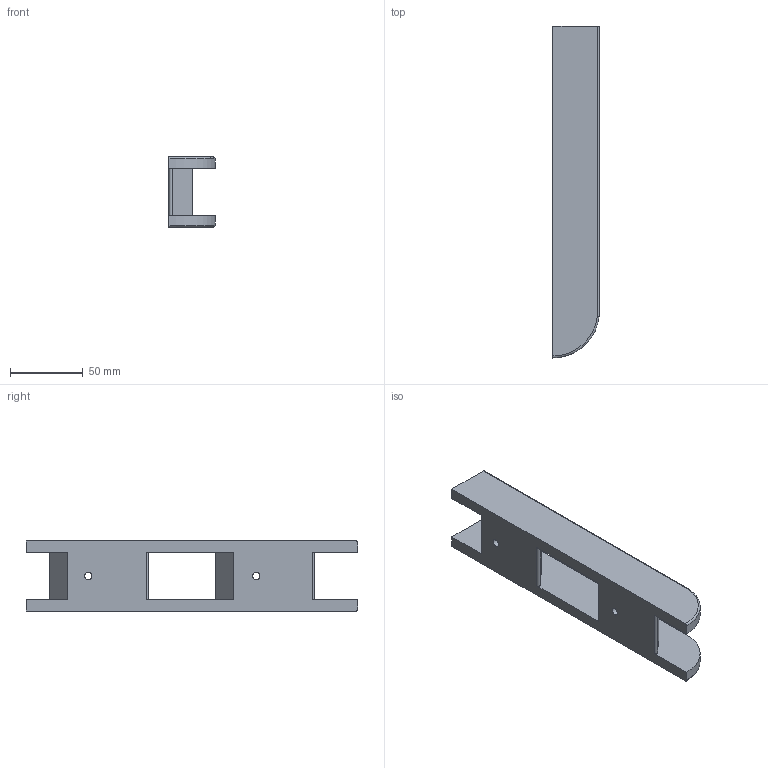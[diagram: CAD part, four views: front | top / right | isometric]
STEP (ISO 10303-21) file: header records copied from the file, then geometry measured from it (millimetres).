
FILE_DESCRIPTION(/* description */ ('STEP AP242','CAx-IF Rec.Pracs.---Representation and Presentation of Product Manufacturing Information (PMI)---4.0---2014-10-13','CAx-IF Rec.Pracs.---3D Tessellated Geometry---0.4---2014-09-14','2;1'),/* implementation_level */ '2;1');
FILE_NAME(/* name */ '677db8ea5ad3f57153c999a5',/* time_stamp */ '2025-01-07T23:29:46Z',/* author */ (''),/* organization */ (''),/* preprocessor_version */ 'ST-DEVELOPER v20',/* originating_system */ 'ONSHAPE BY PTC INC, 1.191',/* authorisation */ ' ');
FILE_SCHEMA (('AP242_MANAGED_MODEL_BASED_3D_ENGINEERING_MIM_LF { 1 0 10303 442 1 1 4 }'));
Length unit declared in the file: metre
Products named in the file (1): Wall Bracket-9
Bounding box: 31.75 x 228.6 x 48.26 mm (x, y, z)
Volume: 168575.6 mm3; surface area: 42739.6 mm2
Topology: 1 solids, 1 shells, 33 faces, 88 edges, 58 vertices
Faces by surface type: plane 17, cylinder 12, torus 2, cone 2
Full cylindrical faces by diameter (mm): 5.08 x2, 12.7 x2
Entity records: 1024 total; most frequent: CARTESIAN_POINT 178, DIRECTION 174, ORIENTED_EDGE 160, EDGE_CURVE 80, AXIS2_PLACEMENT_3D 62, VERTEX_POINT 56, LINE 50, VECTOR 50
